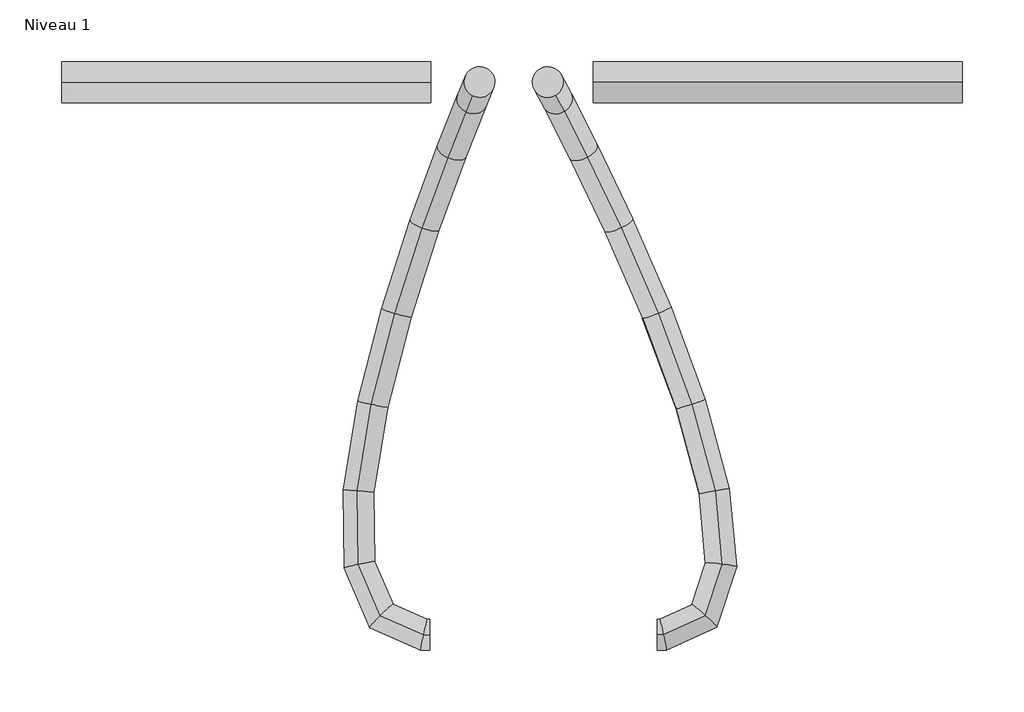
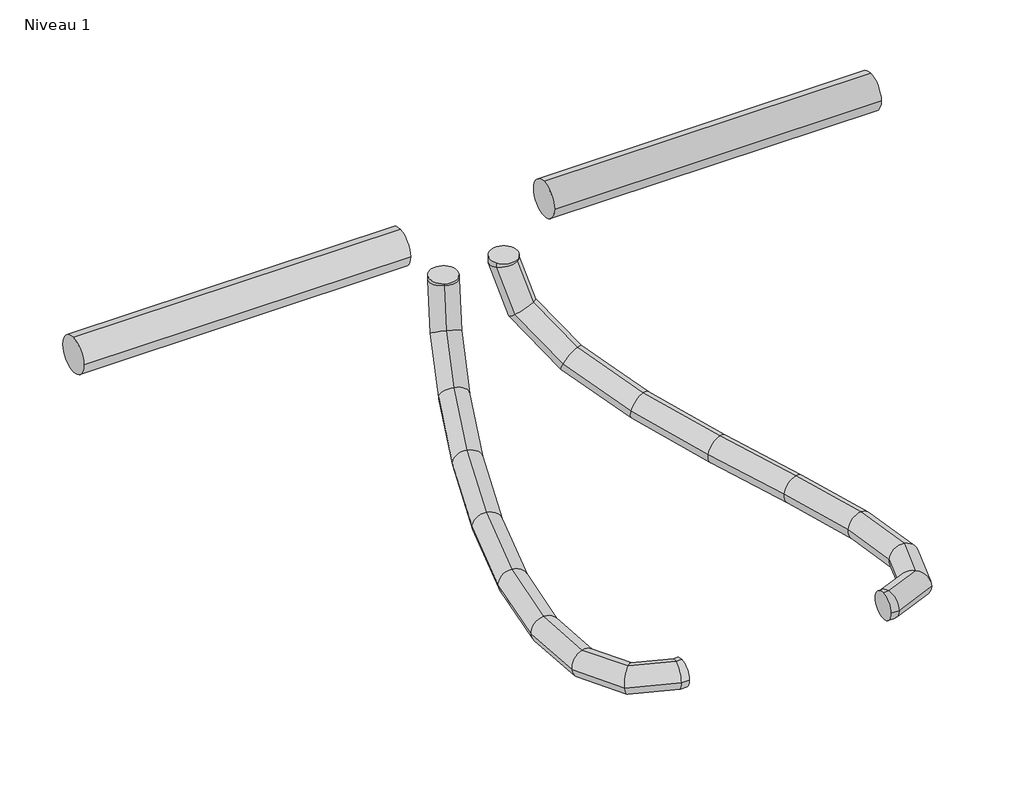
# One storey, incomplete: 4 pipe segments.
"""IFC4 building model written with IfcOpenShell, lengths in millimetres."""

from ifc_helpers import new_model, si_unit, point, frame, frame_2d, origin, place, context, project, spatial, circle_curve, ellipse_curve, trimmed, segment, composite_curve, outline, extrude, element, save
from ifc_brep_helpers import plane_surface, cylinder_surface, advanced_brep

model = new_model("IFC4")

# Units and contexts
model_context = context("Model", 3, world=origin())
ifc_project = project(units=[si_unit("LENGTHUNIT", "METRE", prefix="MILLI")], contexts=[model_context])

# Site, building, storey
site = spatial("IfcSite", under=ifc_project)
building = spatial("IfcBuilding", under=site)
storey = spatial("IfcBuildingStorey", under=building, Name="Niveau 1", Elevation=0.0)

# Pipe segments
placement = place(None, origin())
element("IfcPipeSegment", 1, ObjectType="Souple - Circulaire", at=placement, inside=storey, context=model_context, shape_type="AdvancedBrep", body=[
    advanced_brep(
    [(125.3426474, 1270.5763373, 958.6770583), (125.3426474, 1258.0763373, 946.1770583), (125.3426474, 1245.5763373, 958.6770583), (125.3426474, 1258.0763373, 971.1770583), (127.2908823, 1270.5763373, 958.6770583), (129.7238377, 1258.0763373, 946.1770583), (132.7760285, 1245.5763373, 958.6770583), (130.3430731, 1258.0763373, 971.1770583), (25.7496949, 1700.7544816, 1057.91328), (42.9562285, 1696.7004466, 1057.91328), (47.0102635, 1713.9069803, 1057.91328), (29.8037299, 1717.9610153, 1057.91328), (153.3067671, 1282.5774978, 957.3222097), (162.4311821, 1273.1642765, 944.4737336), (173.5560993, 1264.3882354, 956.5533242), (164.4316843, 1273.8014567, 969.4018003), (164.4809099, 1316.3057877, 954.2706494), (175.9546812, 1313.9839178, 940.7805847), (189.740281, 1313.2389423, 952.1335662), (178.2665097, 1315.5608123, 965.6236309), (159.405523, 1372.3939822, 950.9784835), (170.5348063, 1373.8790555, 937.2649655), (183.9972381, 1376.705415, 948.4083231), (172.8679548, 1375.2203418, 962.1218411), (140.6767932, 1441.6097636, 949.944762), (151.2338656, 1445.2095572, 936.1996611), (164.3732772, 1449.229703, 947.3251899), (153.8162048, 1445.6299094, 961.0702907), (113.4004037, 1515.2437531, 953.5146709), (123.3207147, 1520.562516, 939.8529088), (136.4052079, 1524.7309168, 950.9856252), (126.4848968, 1519.4121539, 964.6473872), (82.9319019, 1585.4721698, 963.9315942), (91.999272, 1592.7569203, 950.5614455), (105.379976, 1596.2425694, 961.5928899), (96.312606, 1588.9578189, 974.9630386), (54.6367981, 1644.7152728, 983.3884782), (62.2881129, 1654.9649004, 970.9920676), (76.5745644, 1656.5541336, 981.4006827), (68.9232495, 1646.304506, 993.7970932), (33.8475682, 1685.5273907, 1014.0062465), (39.1709852, 1700.347002, 1005.0382956), (55.29899, 1698.3210127, 1012.7347248), (49.975573, 1683.5014014, 1021.7026757), (25.7496949, 1700.7544816, 1053.5238608), (29.8037299, 1717.9610153, 1050.7504927), (47.0102635, 1713.9069803, 1053.1837021), (42.9562285, 1696.7004466, 1055.9570702)],
    [
        (0, 1, circle_curve(frame((125.3426474, 1258.0763373, 958.6770583), z_axis=(-1.0, 0.0, 0.0), x_axis=(0.0, 1.0, 0.0)), 12.5)),
        (1, 2, circle_curve(frame((125.3426474, 1258.0763373, 958.6770583), z_axis=(-1.0, 0.0, 0.0), x_axis=(0.0, 1.0, 0.0)), 12.5)),
        (2, 3, circle_curve(frame((125.3426474, 1258.0763373, 958.6770583), z_axis=(-1.0, 0.0, 0.0), x_axis=(0.0, 1.0, 0.0)), 12.5)),
        (3, 0, circle_curve(frame((125.3426474, 1258.0763373, 958.6770583), z_axis=(-1.0, 0.0, 0.0), x_axis=(0.0, 1.0, 0.0)), 12.5)),
        (0, 4),
        (4, 5, ellipse_curve(frame((130.0334554, 1258.0763373, 958.6770583), z_axis=(-0.9764803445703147, -0.21424549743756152, 0.02418684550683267), x_axis=(-0.2156064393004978, 0.97031664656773, -0.10954208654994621)), 12.8010769, 12.5)),
        (5, 1),
        (5, 6, ellipse_curve(frame((130.0334554, 1258.0763373, 958.6770583), z_axis=(-0.9764803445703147, -0.21424549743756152, 0.02418684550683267), x_axis=(-0.2156064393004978, 0.97031664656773, -0.10954208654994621)), 12.8010769, 12.5)),
        (6, 2),
        (6, 7, ellipse_curve(frame((130.0334554, 1258.0763373, 958.6770583), z_axis=(-0.9764803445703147, -0.21424549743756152, 0.02418684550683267), x_axis=(-0.2156064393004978, 0.97031664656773, -0.10954208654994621)), 12.8010769, 12.5)),
        (7, 3),
        (7, 4, ellipse_curve(frame((130.0334554, 1258.0763373, 958.6770583), z_axis=(-0.9764803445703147, -0.21424549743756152, 0.02418684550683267), x_axis=(-0.2156064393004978, 0.97031664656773, -0.10954208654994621)), 12.8010769, 12.5)),
        (8, 9, circle_curve(frame((36.3799792, 1707.3307309, 1057.91328), z_axis=(0.0, 0.0, 1.0), x_axis=(-0.8504227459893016, -0.5260999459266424, 0.0)), 12.5)),
        (9, 10, circle_curve(frame((36.3799792, 1707.3307309, 1057.91328), z_axis=(0.0, 0.0, 1.0), x_axis=(-0.8504227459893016, -0.5260999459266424, 0.0)), 12.5)),
        (10, 11, circle_curve(frame((36.3799792, 1707.3307309, 1057.91328), z_axis=(0.0, 0.0, 1.0), x_axis=(-0.8504227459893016, -0.5260999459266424, 0.0)), 12.5)),
        (11, 8, circle_curve(frame((36.3799792, 1707.3307309, 1057.91328), z_axis=(0.0, 0.0, 1.0), x_axis=(-0.8504227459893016, -0.5260999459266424, 0.0)), 12.5)),
        (4, 12),
        (12, 13, ellipse_curve(frame((163.4314332, 1273.4828666, 956.9377669), z_axis=(-0.6649770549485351, -0.7433496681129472, 0.07236565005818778), x_axis=(-0.7467647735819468, 0.6633381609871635, -0.04821677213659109)), 13.622522, 12.5)),
        (13, 5),
        (13, 14, ellipse_curve(frame((163.4314332, 1273.4828666, 956.9377669), z_axis=(-0.6649770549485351, -0.7433496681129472, 0.07236565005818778), x_axis=(-0.7467647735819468, 0.6633381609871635, -0.04821677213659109)), 13.622522, 12.5)),
        (14, 6),
        (14, 15, ellipse_curve(frame((163.4314332, 1273.4828666, 956.9377669), z_axis=(-0.6649770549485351, -0.7433496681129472, 0.07236565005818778), x_axis=(-0.7467647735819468, 0.6633381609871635, -0.04821677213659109)), 13.622522, 12.5)),
        (15, 7),
        (15, 12, ellipse_curve(frame((163.4314332, 1273.4828666, 956.9377669), z_axis=(-0.6649770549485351, -0.7433496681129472, 0.07236565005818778), x_axis=(-0.7467647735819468, 0.6633381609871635, -0.04821677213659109)), 13.622522, 12.5)),
        (12, 16),
        (16, 17, ellipse_curve(frame((177.1105954, 1314.772365, 953.2021078), z_axis=(-0.11407233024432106, -0.9907496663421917, 0.07350239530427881), x_axis=(-0.9906397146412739, 0.11901843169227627, 0.06683987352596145)), 12.7673077, 12.5)),
        (17, 13),
        (17, 18, ellipse_curve(frame((177.1105954, 1314.772365, 953.2021078), z_axis=(-0.11407233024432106, -0.9907496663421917, 0.07350239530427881), x_axis=(-0.9906397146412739, 0.11901843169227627, 0.06683987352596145)), 12.7673077, 12.5)),
        (18, 14),
        (18, 19, ellipse_curve(frame((177.1105954, 1314.772365, 953.2021078), z_axis=(-0.11407233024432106, -0.9907496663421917, 0.07350239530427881), x_axis=(-0.9906397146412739, 0.11901843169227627, 0.06683987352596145)), 12.7673077, 12.5)),
        (19, 15),
        (19, 16, ellipse_curve(frame((177.1105954, 1314.772365, 953.2021078), z_axis=(-0.11407233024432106, -0.9907496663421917, 0.07350239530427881), x_axis=(-0.9906397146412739, 0.11901843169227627, 0.06683987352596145)), 12.7673077, 12.5)),
        (16, 20),
        (20, 21, ellipse_curve(frame((171.7013806, 1374.5496986, 949.6934033), z_axis=(0.17627450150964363, -0.9836628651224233, 0.03653310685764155), x_axis=(-0.9557799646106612, -0.16216630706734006, 0.24532987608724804)), 12.5504335, 12.5)),
        (21, 17),
        (21, 22, ellipse_curve(frame((171.7013806, 1374.5496986, 949.6934033), z_axis=(0.17627450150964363, -0.9836628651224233, 0.03653310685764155), x_axis=(-0.9557799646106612, -0.16216630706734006, 0.24532987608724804)), 12.5504335, 12.5)),
        (22, 18),
        (22, 23, ellipse_curve(frame((171.7013806, 1374.5496986, 949.6934033), z_axis=(0.17627450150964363, -0.9836628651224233, 0.03653310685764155), x_axis=(-0.9557799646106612, -0.16216630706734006, 0.24532987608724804)), 12.5504335, 12.5)),
        (23, 19),
        (23, 20, ellipse_curve(frame((171.7013806, 1374.5496986, 949.6934033), z_axis=(0.17627450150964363, -0.9836628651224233, 0.03653310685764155), x_axis=(-0.9557799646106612, -0.16216630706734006, 0.24532987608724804)), 12.5504335, 12.5)),
        (20, 24),
        (24, 25, ellipse_curve(frame((152.5250352, 1445.4197333, 948.6349759), z_axis=(0.30453361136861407, -0.9523750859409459, -0.015523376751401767), x_axis=(-0.791700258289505, -0.2621500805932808, 0.551804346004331)), 12.5184102, 12.5)),
        (25, 21),
        (25, 26, ellipse_curve(frame((152.5250352, 1445.4197333, 948.6349759), z_axis=(0.30453361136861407, -0.9523750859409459, -0.015523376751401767), x_axis=(-0.791700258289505, -0.2621500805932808, 0.551804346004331)), 12.5184102, 12.5)),
        (26, 22),
        (26, 27, ellipse_curve(frame((152.5250352, 1445.4197333, 948.6349759), z_axis=(0.30453361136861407, -0.9523750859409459, -0.015523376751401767), x_axis=(-0.791700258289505, -0.2621500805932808, 0.551804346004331)), 12.5184102, 12.5)),
        (27, 23),
        (27, 24, ellipse_curve(frame((152.5250352, 1445.4197333, 948.6349759), z_axis=(0.30453361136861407, -0.9523750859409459, -0.015523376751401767), x_axis=(-0.791700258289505, -0.2621500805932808, 0.551804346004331)), 12.5184102, 12.5)),
        (24, 28),
        (28, 29, ellipse_curve(frame((124.9028058, 1519.987335, 952.250148), z_axis=(0.3712000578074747, -0.92415678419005, -0.09024829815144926), x_axis=(-0.4514144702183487, -0.2645380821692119, 0.852199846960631)), 12.5172372, 12.5)),
        (29, 25),
        (29, 30, ellipse_curve(frame((124.9028058, 1519.987335, 952.250148), z_axis=(0.3712000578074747, -0.92415678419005, -0.09024829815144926), x_axis=(-0.4514144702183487, -0.2645380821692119, 0.852199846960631)), 12.5172372, 12.5)),
        (30, 26),
        (30, 31, ellipse_curve(frame((124.9028058, 1519.987335, 952.250148), z_axis=(0.3712000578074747, -0.92415678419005, -0.09024829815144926), x_axis=(-0.4514144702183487, -0.2645380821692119, 0.852199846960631)), 12.5172372, 12.5)),
        (31, 27),
        (31, 28, ellipse_curve(frame((124.9028058, 1519.987335, 952.250148), z_axis=(0.3712000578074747, -0.92415678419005, -0.09024829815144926), x_axis=(-0.4514144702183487, -0.2645380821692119, 0.852199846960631)), 12.5172372, 12.5)),
        (28, 32),
        (32, 33, ellipse_curve(frame((94.155939, 1590.8573696, 962.762242), z_axis=(0.4050381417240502, -0.8898246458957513, -0.21013377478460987), x_axis=(-0.12020785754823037, -0.2796622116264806, 0.9525434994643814)), 12.538569, 12.5)),
        (33, 29),
        (33, 34, ellipse_curve(frame((94.155939, 1590.8573696, 962.762242), z_axis=(0.4050381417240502, -0.8898246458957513, -0.21013377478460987), x_axis=(-0.12020785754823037, -0.2796622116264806, 0.9525434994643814)), 12.538569, 12.5)),
        (34, 30),
        (34, 35, ellipse_curve(frame((94.155939, 1590.8573696, 962.762242), z_axis=(0.4050381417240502, -0.8898246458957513, -0.21013377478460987), x_axis=(-0.12020785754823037, -0.2796622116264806, 0.9525434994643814)), 12.538569, 12.5)),
        (35, 31),
        (35, 32, ellipse_curve(frame((94.155939, 1590.8573696, 962.762242), z_axis=(0.4050381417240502, -0.8898246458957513, -0.21013377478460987), x_axis=(-0.12020785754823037, -0.2796622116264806, 0.9525434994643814)), 12.538569, 12.5)),
        (32, 36),
        (36, 37, ellipse_curve(frame((65.6056812, 1650.6347032, 982.3945804), z_axis=(0.3998300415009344, -0.8122191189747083, -0.42477763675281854), x_axis=(0.11921025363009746, -0.41341662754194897, 0.9027046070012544)), 12.6438939, 12.5)),
        (37, 33),
        (37, 38, ellipse_curve(frame((65.6056812, 1650.6347032, 982.3945804), z_axis=(0.3998300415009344, -0.8122191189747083, -0.42477763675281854), x_axis=(0.11921025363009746, -0.41341662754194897, 0.9027046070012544)), 12.6438939, 12.5)),
        (38, 34),
        (38, 39, ellipse_curve(frame((65.6056812, 1650.6347032, 982.3945804), z_axis=(0.3998300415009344, -0.8122191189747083, -0.42477763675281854), x_axis=(0.11921025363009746, -0.41341662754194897, 0.9027046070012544)), 12.6438939, 12.5)),
        (39, 35),
        (39, 36, ellipse_curve(frame((65.6056812, 1650.6347032, 982.3945804), z_axis=(0.3998300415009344, -0.8122191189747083, -0.42477763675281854), x_axis=(0.11921025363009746, -0.41341662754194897, 0.9027046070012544)), 12.6438939, 12.5)),
        (36, 40),
        (40, 41, ellipse_curve(frame((44.5732791, 1691.9242017, 1013.3704856), z_axis=(0.2944620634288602, -0.569971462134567, -0.7670884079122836), x_axis=(0.33698847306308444, -0.6891889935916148, 0.6414493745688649)), 13.0256667, 12.5)),
        (41, 37),
        (41, 42, ellipse_curve(frame((44.5732791, 1691.9242017, 1013.3704856), z_axis=(0.2944620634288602, -0.569971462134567, -0.7670884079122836), x_axis=(0.33698847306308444, -0.6891889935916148, 0.6414493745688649)), 13.0256667, 12.5)),
        (42, 38),
        (42, 43, ellipse_curve(frame((44.5732791, 1691.9242017, 1013.3704856), z_axis=(0.2944620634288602, -0.569971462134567, -0.7670884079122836), x_axis=(0.33698847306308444, -0.6891889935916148, 0.6414493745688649)), 13.0256667, 12.5)),
        (43, 39),
        (43, 40, ellipse_curve(frame((44.5732791, 1691.9242017, 1013.3704856), z_axis=(0.2944620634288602, -0.569971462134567, -0.7670884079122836), x_axis=(0.33698847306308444, -0.6891889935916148, 0.6414493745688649)), 13.0256667, 12.5)),
        (40, 44),
        (44, 45, ellipse_curve(frame((36.3799792, 1707.3307309, 1053.3537815), z_axis=(0.09592905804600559, -0.1803832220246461, -0.97890730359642), x_axis=(0.4596348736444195, -0.8642888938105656, 0.20430489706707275)), 12.7693398, 12.5)),
        (45, 41),
        (45, 46, ellipse_curve(frame((36.3799792, 1707.3307309, 1053.3537815), z_axis=(0.09592905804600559, -0.1803832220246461, -0.97890730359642), x_axis=(0.4596348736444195, -0.8642888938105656, 0.20430489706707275)), 12.7693398, 12.5)),
        (46, 42),
        (46, 47, ellipse_curve(frame((36.3799792, 1707.3307309, 1053.3537815), z_axis=(0.09592905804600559, -0.1803832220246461, -0.97890730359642), x_axis=(0.4596348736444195, -0.8642888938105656, 0.20430489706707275)), 12.7693398, 12.5)),
        (47, 43),
        (47, 44, ellipse_curve(frame((36.3799792, 1707.3307309, 1053.3537815), z_axis=(0.09592905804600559, -0.1803832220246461, -0.97890730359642), x_axis=(0.4596348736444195, -0.8642888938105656, 0.20430489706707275)), 12.7693398, 12.5)),
        (44, 8),
        (11, 45),
        (10, 46),
        (9, 47),
    ],
    [
        plane_surface(frame((125.3426474, 1258.0763373, 946.1770583), z_axis=(-1.0, 0.0, 0.0), x_axis=(0.0, 1.0, 0.0))),
        cylinder_surface(frame((125.3426474, 1258.0763373, 958.6770583), z_axis=(-1.0, 0.0, 0.0), x_axis=(0.0, 1.0, 0.0)), 12.5),
        plane_surface(frame((36.3799792, 1694.8307309, 1057.91328), z_axis=(0.0, 0.0, 1.0), x_axis=(1.0, 0.0, 0.0))),
        cylinder_surface(frame((130.0334554, 1258.0763373, 958.6770583), z_axis=(-0.9070277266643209, -0.41841303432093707, 0.047235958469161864), x_axis=(-0.41841303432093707, 0.9081977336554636, 0.010363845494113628)), 12.5),
        cylinder_surface(frame((163.4314332, 1273.4828666, 956.9377669), z_axis=(-0.31333560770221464, -0.9457794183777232, 0.08556920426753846), x_axis=(-0.9452390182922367, 0.3192812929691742, 0.0676953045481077)), 12.5),
        cylinder_surface(frame((177.1105954, 1314.772365, 953.2021078), z_axis=(0.089967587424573, -0.9942334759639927, 0.05835776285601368), x_axis=(-0.9916724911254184, -0.08400623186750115, 0.09761466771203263)), 12.5),
        cylinder_surface(frame((171.7013806, 1374.5496986, 949.6934033), z_axis=(0.2611647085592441, -0.9651866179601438, 0.014414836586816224), x_axis=(-0.9604343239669, -0.2583242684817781, 0.10408881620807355)), 12.5),
        cylinder_surface(frame((152.5250352, 1445.4197333, 948.6349759), z_axis=(0.3470067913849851, -0.9367623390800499, -0.045415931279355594), x_axis=(-0.9311511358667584, -0.34990226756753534, 0.10259612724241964)), 12.5),
        cylinder_surface(frame((124.9028058, 1519.987335, 952.250148), z_axis=(0.3943709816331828, -0.9090059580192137, -0.13483210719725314), x_axis=(-0.9077373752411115, -0.40819424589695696, 0.0969036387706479)), 12.5),
        cylinder_surface(frame((94.155939, 1590.8573696, 962.762242), z_axis=(0.4132134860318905, -0.8651690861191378, -0.28414268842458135), x_axis=(-0.8876396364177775, -0.4523467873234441, 0.08647693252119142)), 12.5),
        cylinder_surface(frame((65.6056812, 1650.6347032, 982.3945804), z_axis=(0.3773460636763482, -0.7407822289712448, -0.555744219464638), x_axis=(-0.8682608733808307, -0.4917130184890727, 0.06588902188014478)), 12.5),
        cylinder_surface(frame((44.5732791, 1691.9242017, 1013.3704856), z_axis=(0.1878113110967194, -0.3531569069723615, -0.9165190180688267), x_axis=(-0.8529781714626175, -0.5212947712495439, 0.026076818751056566)), 12.5),
        cylinder_surface(frame((36.3799792, 1707.3307309, 1053.3537815), z_axis=(0.0, 0.0, -1.0000000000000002), x_axis=(-0.8504227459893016, -0.5260999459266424, 0.0)), 12.5),
    ],
    [
        (0, [[1, 2, 3, 4]]),
        (1, [[-1, 5, 6, 7]]),
        (1, [[-2, -7, 8, 9]]),
        (1, [[-3, -9, 10, 11]]),
        (1, [[-4, -11, 12, -5]]),
        (2, [[13, 14, 15, 16]]),
        (3, [[-6, 17, 18, 19]]),
        (3, [[-8, -19, 20, 21]]),
        (3, [[-10, -21, 22, 23]]),
        (3, [[-12, -23, 24, -17]]),
        (4, [[-18, 25, 26, 27]]),
        (4, [[-20, -27, 28, 29]]),
        (4, [[-22, -29, 30, 31]]),
        (4, [[-24, -31, 32, -25]]),
        (5, [[-26, 33, 34, 35]]),
        (5, [[-28, -35, 36, 37]]),
        (5, [[-30, -37, 38, 39]]),
        (5, [[-32, -39, 40, -33]]),
        (6, [[-34, 41, 42, 43]]),
        (6, [[-36, -43, 44, 45]]),
        (6, [[-38, -45, 46, 47]]),
        (6, [[-40, -47, 48, -41]]),
        (7, [[-42, 49, 50, 51]]),
        (7, [[-44, -51, 52, 53]]),
        (7, [[-46, -53, 54, 55]]),
        (7, [[-48, -55, 56, -49]]),
        (8, [[-50, 57, 58, 59]]),
        (8, [[-52, -59, 60, 61]]),
        (8, [[-54, -61, 62, 63]]),
        (8, [[-56, -63, 64, -57]]),
        (9, [[-58, 65, 66, 67]]),
        (9, [[-60, -67, 68, 69]]),
        (9, [[-62, -69, 70, 71]]),
        (9, [[-64, -71, 72, -65]]),
        (10, [[-66, 73, 74, 75]]),
        (10, [[-68, -75, 76, 77]]),
        (10, [[-70, -77, 78, 79]]),
        (10, [[-72, -79, 80, -73]]),
        (11, [[-74, 81, 82, 83]]),
        (11, [[-76, -83, 84, 85]]),
        (11, [[-78, -85, 86, 87]]),
        (11, [[-80, -87, 88, -81]]),
        (12, [[-82, 89, -16, 90]]),
        (12, [[-84, -90, -15, 91]]),
        (12, [[-86, -91, -14, 92]]),
        (12, [[-88, -92, -13, -89]]),
    ],
),
])
element("IfcPipeSegment", 2, ObjectType="Souple - Circulaire", at=placement, inside=storey, context=model_context, shape_type="AdvancedBrep", body=[
    advanced_brep(
    [(-59.6821361, 1245.5763373, 958.6770583), (-59.6821361, 1258.0763373, 946.1770583), (-59.6821361, 1270.5763373, 958.6770583), (-59.6821361, 1258.0763373, 971.1770583), (-66.9192141, 1245.5763373, 958.6770583), (-63.9749005, 1258.0763373, 946.1770583), (-61.6044195, 1270.5763373, 958.6770583), (-64.5487331, 1258.0763373, 971.1770583), (-30.3995978, 1712.6926694, 1057.9740311), (-24.4699634, 1696.0391582, 1057.9740311), (-7.8164522, 1701.9687925, 1057.9740311), (-13.7460866, 1718.6223037, 1057.9740311), (-108.3574093, 1264.0393451, 956.6836277), (-97.9454099, 1273.2120781, 944.5428691), (-89.3227533, 1282.9263881, 957.3436369), (-99.7347527, 1273.7536551, 969.4843956), (-129.0680752, 1312.0459438, 952.5611948), (-115.5994189, 1314.1334529, 941.02886), (-104.2377319, 1317.4987863, 954.3748286), (-117.7063882, 1315.4112771, 965.9071634), (-130.0615219, 1375.4182972, 949.1042585), (-116.5388689, 1374.0613374, 937.7598181), (-105.118465, 1373.6811001, 951.310106), (-118.641118, 1375.0380598, 962.6545464), (-118.3138701, 1448.0086016, 948.2755676), (-104.9897973, 1445.4245887, 936.9451352), (-93.927613, 1442.830865, 950.5206923), (-107.2516858, 1445.4148779, 961.8511246), (-98.6494335, 1523.5684557, 952.1359731), (-85.3651813, 1520.8314336, 940.7977234), (-74.7796433, 1516.4062143, 954.2797081), (-88.0638956, 1519.1432364, 965.6179578), (-75.5573918, 1595.1147833, 962.8325422), (-62.0346414, 1593.1167025, 951.6047682), (-52.1241575, 1586.5999559, 964.7740581), (-65.6469078, 1588.5980367, 976.001832), (-53.4893131, 1655.4281928, 982.5560423), (-39.2188062, 1655.4737763, 971.996581), (-30.4483685, 1645.8412137, 984.1469466), (-44.7188753, 1645.7956301, 994.7064079), (-36.9186092, 1697.1456494, 1013.5418247), (-21.1339124, 1701.003271, 1005.8137676), (-14.2176455, 1686.7027539, 1014.4969942), (-30.0023423, 1682.8451324, 1022.2250513), (-30.3995978, 1712.6926694, 1053.4157666), (-13.7460866, 1718.6223037, 1051.0018672), (-7.8164522, 1701.9687925, 1053.6502941), (-24.4699634, 1696.0391582, 1056.0641934)],
    [
        (0, 1, circle_curve(frame((-59.6821361, 1258.0763373, 958.6770583), z_axis=(1.0, 0.0, 0.0), x_axis=(0.0, -1.0, 0.0)), 12.5)),
        (1, 2, circle_curve(frame((-59.6821361, 1258.0763373, 958.6770583), z_axis=(1.0, 0.0, 0.0), x_axis=(0.0, -1.0, 0.0)), 12.5)),
        (2, 3, circle_curve(frame((-59.6821361, 1258.0763373, 958.6770583), z_axis=(1.0, 0.0, 0.0), x_axis=(0.0, -1.0, 0.0)), 12.5)),
        (3, 0, circle_curve(frame((-59.6821361, 1258.0763373, 958.6770583), z_axis=(1.0, 0.0, 0.0), x_axis=(0.0, -1.0, 0.0)), 12.5)),
        (0, 4),
        (4, 5, ellipse_curve(frame((-64.2618168, 1258.0763373, 958.6770583), z_axis=(0.9778941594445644, -0.20789226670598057, 0.02244589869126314), x_axis=(0.2091004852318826, 0.972243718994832, -0.10497208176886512)), 12.7825694, 12.5)),
        (5, 1),
        (5, 6, ellipse_curve(frame((-64.2618168, 1258.0763373, 958.6770583), z_axis=(0.9778941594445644, -0.20789226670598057, 0.02244589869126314), x_axis=(0.2091004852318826, 0.972243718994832, -0.10497208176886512)), 12.7825694, 12.5)),
        (6, 2),
        (6, 7, ellipse_curve(frame((-64.2618168, 1258.0763373, 958.6770583), z_axis=(0.9778941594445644, -0.20789226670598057, 0.02244589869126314), x_axis=(0.2091004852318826, 0.972243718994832, -0.10497208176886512)), 12.7825694, 12.5)),
        (7, 3),
        (7, 4, ellipse_curve(frame((-64.2618168, 1258.0763373, 958.6770583), z_axis=(0.9778941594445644, -0.20789226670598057, 0.02244589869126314), x_axis=(0.2091004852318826, 0.972243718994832, -0.10497208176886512)), 12.7825694, 12.5)),
        (8, 9, circle_curve(frame((-19.108025, 1707.3307309, 1057.9740311), z_axis=(0.0, 0.0, 1.0), x_axis=(-0.9033258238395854, 0.42895507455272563, 0.0)), 12.5)),
        (9, 10, circle_curve(frame((-19.108025, 1707.3307309, 1057.9740311), z_axis=(0.0, 0.0, 1.0), x_axis=(-0.9033258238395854, 0.42895507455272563, 0.0)), 12.5)),
        (10, 11, circle_curve(frame((-19.108025, 1707.3307309, 1057.9740311), z_axis=(0.0, 0.0, 1.0), x_axis=(-0.9033258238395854, 0.42895507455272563, 0.0)), 12.5)),
        (11, 8, circle_curve(frame((-19.108025, 1707.3307309, 1057.9740311), z_axis=(0.0, 0.0, 1.0), x_axis=(-0.9033258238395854, 0.42895507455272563, 0.0)), 12.5)),
        (4, 12),
        (12, 13, ellipse_curve(frame((-98.8400813, 1273.4828666, 957.0136323), z_axis=(0.7016755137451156, -0.7094569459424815, 0.06574431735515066), x_axis=(0.7123930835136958, 0.7001536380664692, -0.047759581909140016)), 13.4168637, 12.5)),
        (13, 5),
        (13, 14, ellipse_curve(frame((-98.8400813, 1273.4828666, 957.0136323), z_axis=(0.7016755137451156, -0.7094569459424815, 0.06574431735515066), x_axis=(0.7123930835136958, 0.7001536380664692, -0.047759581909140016)), 13.4168637, 12.5)),
        (14, 6),
        (14, 15, ellipse_curve(frame((-98.8400813, 1273.4828666, 957.0136323), z_axis=(0.7016755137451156, -0.7094569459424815, 0.06574431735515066), x_axis=(0.7123930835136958, 0.7001536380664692, -0.047759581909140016)), 13.4168637, 12.5)),
        (15, 7),
        (15, 12, ellipse_curve(frame((-98.8400813, 1273.4828666, 957.0136323), z_axis=(0.7016755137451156, -0.7094569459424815, 0.06574431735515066), x_axis=(0.7123930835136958, 0.7001536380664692, -0.047759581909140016)), 13.4168637, 12.5)),
        (12, 16),
        (16, 17, ellipse_curve(frame((-116.6529035, 1314.772365, 953.4680117), z_axis=(0.20927004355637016, -0.9755026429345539, 0.06782803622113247), x_axis=(0.9749756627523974, 0.21347241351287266, 0.06206436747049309)), 12.7433398, 12.5)),
        (17, 13),
        (17, 18, ellipse_curve(frame((-116.6529035, 1314.772365, 953.4680117), z_axis=(0.20927004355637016, -0.9755026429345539, 0.06782803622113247), x_axis=(0.9749756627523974, 0.21347241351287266, 0.06206436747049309)), 12.7433398, 12.5)),
        (18, 14),
        (18, 19, ellipse_curve(frame((-116.6529035, 1314.772365, 953.4680117), z_axis=(0.20927004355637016, -0.9755026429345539, 0.06782803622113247), x_axis=(0.9749756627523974, 0.21347241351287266, 0.06206436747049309)), 12.7433398, 12.5)),
        (19, 15),
        (19, 16, ellipse_curve(frame((-116.6529035, 1314.772365, 953.4680117), z_axis=(0.20927004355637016, -0.9755026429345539, 0.06782803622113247), x_axis=(0.9749756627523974, 0.21347241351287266, 0.06206436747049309)), 12.7433398, 12.5)),
        (16, 20),
        (20, 21, ellipse_curve(frame((-117.5899934, 1374.5496986, 950.2071822), z_axis=(-0.07234442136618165, -0.9968336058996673, 0.033000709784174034), x_axis=(0.969096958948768, -0.062430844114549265, 0.23864926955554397)), 12.5515003, 12.5)),
        (21, 17),
        (21, 22, ellipse_curve(frame((-117.5899934, 1374.5496986, 950.2071822), z_axis=(-0.07234442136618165, -0.9968336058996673, 0.033000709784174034), x_axis=(0.969096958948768, -0.062430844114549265, 0.23864926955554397)), 12.5515003, 12.5)),
        (22, 18),
        (22, 23, ellipse_curve(frame((-117.5899934, 1374.5496986, 950.2071822), z_axis=(-0.07234442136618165, -0.9968336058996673, 0.033000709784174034), x_axis=(0.969096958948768, -0.062430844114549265, 0.23864926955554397)), 12.5515003, 12.5)),
        (23, 19),
        (23, 20, ellipse_curve(frame((-117.5899934, 1374.5496986, 950.2071822), z_axis=(-0.07234442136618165, -0.9968336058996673, 0.033000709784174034), x_axis=(0.969096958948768, -0.062430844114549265, 0.23864926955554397)), 12.5515003, 12.5)),
        (20, 24),
        (24, 25, ellipse_curve(frame((-106.1207415, 1445.4197333, 949.3981299), z_axis=(-0.20597245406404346, -0.9783716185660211, -0.019087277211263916), x_axis=(0.8202310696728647, -0.1832515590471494, 0.5418854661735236)), 12.5196208, 12.5)),
        (25, 21),
        (25, 26, ellipse_curve(frame((-106.1207415, 1445.4197333, 949.3981299), z_axis=(-0.20597245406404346, -0.9783716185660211, -0.019087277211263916), x_axis=(0.8202310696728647, -0.1832515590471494, 0.5418854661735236)), 12.5196208, 12.5)),
        (26, 22),
        (26, 27, ellipse_curve(frame((-106.1207415, 1445.4197333, 949.3981299), z_axis=(-0.20597245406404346, -0.9783716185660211, -0.019087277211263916), x_axis=(0.8202310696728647, -0.1832515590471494, 0.5418854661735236)), 12.5196208, 12.5)),
        (27, 23),
        (27, 24, ellipse_curve(frame((-106.1207415, 1445.4197333, 949.3981299), z_axis=(-0.20597245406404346, -0.9783716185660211, -0.019087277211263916), x_axis=(0.8202310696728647, -0.1832515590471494, 0.5418854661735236)), 12.5196208, 12.5)),
        (24, 28),
        (28, 29, ellipse_curve(frame((-86.7145384, 1519.987335, 953.2078406), z_axis=(-0.2782304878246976, -0.9557787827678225, -0.09526129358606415), x_axis=(0.48522092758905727, -0.22545230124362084, 0.8448265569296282)), 12.5183594, 12.5)),
        (29, 25),
        (29, 30, ellipse_curve(frame((-86.7145384, 1519.987335, 953.2078406), z_axis=(-0.2782304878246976, -0.9557787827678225, -0.09526129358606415), x_axis=(0.48522092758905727, -0.22545230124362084, 0.8448265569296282)), 12.5183594, 12.5)),
        (30, 26),
        (30, 31, ellipse_curve(frame((-86.7145384, 1519.987335, 953.2078406), z_axis=(-0.2782304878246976, -0.9557787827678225, -0.09526129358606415), x_axis=(0.48522092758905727, -0.22545230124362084, 0.8448265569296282)), 12.5183594, 12.5)),
        (31, 27),
        (31, 28, ellipse_curve(frame((-86.7145384, 1519.987335, 953.2078406), z_axis=(-0.2782304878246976, -0.9557787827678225, -0.09526129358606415), x_axis=(0.48522092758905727, -0.22545230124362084, 0.8448265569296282)), 12.5183594, 12.5)),
        (28, 32),
        (32, 33, ellipse_curve(frame((-63.8407746, 1590.8573696, 963.8033001), z_axis=(-0.3173100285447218, -0.9229430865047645, -0.21792293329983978), x_axis=(0.15151177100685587, -0.276185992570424, 0.9490866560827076)), 12.5406516, 12.5)),
        (33, 29),
        (33, 34, ellipse_curve(frame((-63.8407746, 1590.8573696, 963.8033001), z_axis=(-0.3173100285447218, -0.9229430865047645, -0.21792293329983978), x_axis=(0.15151177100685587, -0.276185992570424, 0.9490866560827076)), 12.5406516, 12.5)),
        (34, 30),
        (34, 35, ellipse_curve(frame((-63.8407746, 1590.8573696, 963.8033001), z_axis=(-0.3173100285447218, -0.9229430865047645, -0.21792293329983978), x_axis=(0.15151177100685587, -0.276185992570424, 0.9490866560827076)), 12.5406516, 12.5)),
        (35, 31),
        (35, 32, ellipse_curve(frame((-63.8407746, 1590.8573696, 963.8033001), z_axis=(-0.3173100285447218, -0.9229430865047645, -0.21792293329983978), x_axis=(0.15151177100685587, -0.276185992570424, 0.9490866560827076)), 12.5406516, 12.5)),
        (32, 36),
        (36, 37, ellipse_curve(frame((-41.9688408, 1650.6347032, 983.3514945), z_axis=(-0.31990363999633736, -0.8411885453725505, -0.43596271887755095), x_axis=(-0.08061490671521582, -0.4343079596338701, 0.8971498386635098)), 12.6489109, 12.5)),
        (37, 33),
        (37, 38, ellipse_curve(frame((-41.9688408, 1650.6347032, 983.3514945), z_axis=(-0.31990363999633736, -0.8411885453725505, -0.43596271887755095), x_axis=(-0.08061490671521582, -0.4343079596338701, 0.8971498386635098)), 12.6489109, 12.5)),
        (38, 34),
        (38, 39, ellipse_curve(frame((-41.9688408, 1650.6347032, 983.3514945), z_axis=(-0.31990363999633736, -0.8411885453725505, -0.43596271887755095), x_axis=(-0.08061490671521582, -0.4343079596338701, 0.8971498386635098)), 12.6489109, 12.5)),
        (39, 35),
        (39, 36, ellipse_curve(frame((-41.9688408, 1650.6347032, 983.3514945), z_axis=(-0.31990363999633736, -0.8411885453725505, -0.43596271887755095), x_axis=(-0.08061490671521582, -0.4343079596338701, 0.8971498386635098)), 12.6489109, 12.5)),
        (36, 40),
        (40, 41, ellipse_curve(frame((-25.5681274, 1691.9242017, 1014.0194095), z_axis=(-0.2366309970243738, -0.5853248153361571, -0.7755002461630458), x_axis=(-0.274012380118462, -0.7255657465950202, 0.6312460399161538)), 13.0191921, 12.5)),
        (41, 37),
        (41, 42, ellipse_curve(frame((-25.5681274, 1691.9242017, 1014.0194095), z_axis=(-0.2366309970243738, -0.5853248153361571, -0.7755002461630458), x_axis=(-0.274012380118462, -0.7255657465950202, 0.6312460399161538)), 13.0191921, 12.5)),
        (42, 38),
        (42, 43, ellipse_curve(frame((-25.5681274, 1691.9242017, 1014.0194095), z_axis=(-0.2366309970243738, -0.5853248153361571, -0.7755002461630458), x_axis=(-0.274012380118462, -0.7255657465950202, 0.6312460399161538)), 13.0191921, 12.5)),
        (43, 39),
        (43, 40, ellipse_curve(frame((-25.5681274, 1691.9242017, 1014.0194095), z_axis=(-0.2366309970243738, -0.5853248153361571, -0.7755002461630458), x_axis=(-0.274012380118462, -0.7255657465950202, 0.6312460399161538)), 13.0191921, 12.5)),
        (40, 44),
        (44, 45, ellipse_curve(frame((-19.108025, 1707.3307309, 1053.5330303), z_axis=(-0.07682372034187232, -0.1832148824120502, -0.9800665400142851), x_axis=(-0.3789829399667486, -0.9038265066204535, 0.19866951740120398)), 12.7542361, 12.5)),
        (45, 41),
        (45, 46, ellipse_curve(frame((-19.108025, 1707.3307309, 1053.5330303), z_axis=(-0.07682372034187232, -0.1832148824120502, -0.9800665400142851), x_axis=(-0.3789829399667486, -0.9038265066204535, 0.19866951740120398)), 12.7542361, 12.5)),
        (46, 42),
        (46, 47, ellipse_curve(frame((-19.108025, 1707.3307309, 1053.5330303), z_axis=(-0.07682372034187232, -0.1832148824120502, -0.9800665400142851), x_axis=(-0.3789829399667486, -0.9038265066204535, 0.19866951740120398)), 12.7542361, 12.5)),
        (47, 43),
        (47, 44, ellipse_curve(frame((-19.108025, 1707.3307309, 1053.5330303), z_axis=(-0.07682372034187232, -0.1832148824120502, -0.9800665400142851), x_axis=(-0.3789829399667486, -0.9038265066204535, 0.19866951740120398)), 12.7542361, 12.5)),
        (44, 8),
        (11, 45),
        (10, 46),
        (9, 47),
    ],
    [
        plane_surface(frame((-59.6821361, 1258.0763373, 946.1770583), z_axis=(1.0, 0.0, 0.0), x_axis=(0.0, -1.0, 0.0))),
        cylinder_surface(frame((-59.6821361, 1258.0763373, 958.6770583), z_axis=(1.0, 0.0, 0.0), x_axis=(0.0, -1.0, 0.0)), 12.5),
        plane_surface(frame((-19.108025, 1694.8307309, 1057.9740311), z_axis=(0.0, 0.0, 1.0), x_axis=(1.0, 0.0, 0.0))),
        cylinder_surface(frame((-64.2618168, 1258.0763373, 958.6770583), z_axis=(0.912553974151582, -0.4065932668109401, 0.04389942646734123), x_axis=(-0.4065932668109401, -0.9135616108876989, -0.009332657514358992)), 12.5),
        cylinder_surface(frame((-98.8400813, 1273.4828666, 957.0136323), z_axis=(0.39489672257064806, -0.9153567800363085, 0.07860371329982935), x_axis=(-0.9149186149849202, -0.3995990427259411, -0.05696080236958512)), 12.5),
        cylinder_surface(frame((-116.6529035, 1314.772365, 953.4680117), z_axis=(0.015651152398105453, -0.9983931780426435, 0.05446194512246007), x_axis=(-0.9963168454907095, -0.02016495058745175, -0.08334337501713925)), 12.5),
        cylinder_surface(frame((-117.5899934, 1374.5496986, 950.2071822), z_axis=(-0.1597463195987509, -0.9870937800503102, 0.011268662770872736), x_axis=(-0.9833775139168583, 0.15812606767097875, -0.08924579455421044)), 12.5),
        cylinder_surface(frame((-106.1207415, 1445.4197333, 949.3981299), z_axis=(-0.251552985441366, -0.966582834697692, -0.0493833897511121), x_axis=(-0.9629672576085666, 0.2550750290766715, -0.08735439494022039)), 12.5),
        cylinder_surface(frame((-86.7145384, 1519.987335, 953.2078406), z_axis=(-0.3040918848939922, -0.9421712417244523, -0.14085977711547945), x_axis=(-0.944908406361, 0.3171108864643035, -0.08117135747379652)), 12.5),
        cylinder_surface(frame((-63.8407746, 1590.8573696, 963.8033001), z_axis=(-0.3284709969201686, -0.8977313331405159, -0.2935732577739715), x_axis=(-0.9291427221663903, 0.3629677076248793, -0.07034376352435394)), 12.5),
        cylinder_surface(frame((-41.9688408, 1650.6347032, 983.3514945), z_axis=(-0.3038040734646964, -0.7648397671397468, -0.5680873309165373), x_axis=(-0.9146964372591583, 0.4009543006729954, -0.05065645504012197)), 12.5),
        cylinder_surface(frame((-25.5681274, 1691.9242017, 1014.0194095), z_axis=(-0.15058471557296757, -0.35912555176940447, -0.9210608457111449), x_axis=(-0.9047384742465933, 0.4255860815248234, -0.018021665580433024)), 12.5),
        cylinder_surface(frame((-19.108025, 1707.3307309, 1053.5330303), z_axis=(0.0, 0.0, -1.0), x_axis=(-0.9033258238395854, 0.42895507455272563, 0.0)), 12.5),
    ],
    [
        (0, [[1, 2, 3, 4]]),
        (1, [[-1, 5, 6, 7]]),
        (1, [[-2, -7, 8, 9]]),
        (1, [[-3, -9, 10, 11]]),
        (1, [[-4, -11, 12, -5]]),
        (2, [[13, 14, 15, 16]]),
        (3, [[-6, 17, 18, 19]]),
        (3, [[-8, -19, 20, 21]]),
        (3, [[-10, -21, 22, 23]]),
        (3, [[-12, -23, 24, -17]]),
        (4, [[-18, 25, 26, 27]]),
        (4, [[-20, -27, 28, 29]]),
        (4, [[-22, -29, 30, 31]]),
        (4, [[-24, -31, 32, -25]]),
        (5, [[-26, 33, 34, 35]]),
        (5, [[-28, -35, 36, 37]]),
        (5, [[-30, -37, 38, 39]]),
        (5, [[-32, -39, 40, -33]]),
        (6, [[-34, 41, 42, 43]]),
        (6, [[-36, -43, 44, 45]]),
        (6, [[-38, -45, 46, 47]]),
        (6, [[-40, -47, 48, -41]]),
        (7, [[-42, 49, 50, 51]]),
        (7, [[-44, -51, 52, 53]]),
        (7, [[-46, -53, 54, 55]]),
        (7, [[-48, -55, 56, -49]]),
        (8, [[-50, 57, 58, 59]]),
        (8, [[-52, -59, 60, 61]]),
        (8, [[-54, -61, 62, 63]]),
        (8, [[-56, -63, 64, -57]]),
        (9, [[-58, 65, 66, 67]]),
        (9, [[-60, -67, 68, 69]]),
        (9, [[-62, -69, 70, 71]]),
        (9, [[-64, -71, 72, -65]]),
        (10, [[-66, 73, 74, 75]]),
        (10, [[-68, -75, 76, 77]]),
        (10, [[-70, -77, 78, 79]]),
        (10, [[-72, -79, 80, -73]]),
        (11, [[-74, 81, 82, 83]]),
        (11, [[-76, -83, 84, 85]]),
        (11, [[-78, -85, 86, 87]]),
        (11, [[-80, -87, 88, -81]]),
        (12, [[-82, 89, -16, 90]]),
        (12, [[-84, -90, -15, 91]]),
        (12, [[-86, -91, -14, 92]]),
        (12, [[-88, -92, -13, -89]]),
    ],
),
])
element("IfcPipeSegment", 3, ObjectType="Standard", at=placement, inside=storey, context=model_context, shape_type="SweptSolid", body=[
    extrude(outline(composite_curve([segment(trimmed(circle_curve(frame_2d((1707.3307309, 1099.53125)), 16.7005), [point((1724.0312309, 1099.53125))], [point((1707.3307309, 1082.83075))], False, "CARTESIAN"), True, "CONTINUOUS"), segment(trimmed(circle_curve(frame_2d((1707.3307309, 1099.53125)), 16.7005), [point((1707.3307309, 1082.83075))], [point((1690.6302309, 1099.53125))], False, "CARTESIAN"), True, "CONTINUOUS"), segment(trimmed(circle_curve(frame_2d((1707.3307309, 1099.53125)), 16.7005), [point((1690.6302309, 1099.53125))], [point((1707.3307309, 1116.23175))], False, "CARTESIAN"), True, "CONTINUOUS"), segment(trimmed(circle_curve(frame_2d((1707.3307309, 1099.53125)), 16.7005), [point((1707.3307309, 1116.23175))], [point((1724.0312309, 1099.53125))], False, "CARTESIAN"), True, "CONTINUOUS")], self_intersect=False)), frame((-358.8734836, 0.0, 0.0), z_axis=(1.0, 0.0, 0.0), x_axis=(0.0, 1.0, 0.0)), (0.0, 0.0, 1.0), 300.0),
])
element("IfcPipeSegment", 4, ObjectType="Standard", at=placement, inside=storey, context=model_context, shape_type="SweptSolid", body=[
    extrude(outline(composite_curve([segment(trimmed(circle_curve(frame_2d((1707.3307309, 1099.53125)), 16.7005), [point((1690.6302309, 1099.53125))], [point((1707.3307309, 1116.23175))], False, "CARTESIAN"), True, "CONTINUOUS"), segment(trimmed(circle_curve(frame_2d((1707.3307309, 1099.53125)), 16.7005), [point((1707.3307309, 1116.23175))], [point((1724.0312309, 1099.53125))], False, "CARTESIAN"), True, "CONTINUOUS"), segment(trimmed(circle_curve(frame_2d((1707.3307309, 1099.53125)), 16.7005), [point((1724.0312309, 1099.53125))], [point((1707.3307309, 1082.83075))], False, "CARTESIAN"), True, "CONTINUOUS"), segment(trimmed(circle_curve(frame_2d((1707.3307309, 1099.53125)), 16.7005), [point((1707.3307309, 1082.83075))], [point((1690.6302309, 1099.53125))], False, "CARTESIAN"), True, "CONTINUOUS")], self_intersect=False)), frame((73.3765164, 0.0, 0.0), z_axis=(1.0, 0.0, 0.0), x_axis=(0.0, 1.0, 0.0)), (0.0, 0.0, 1.0), 300.0),
])

save(model, "model.ifc")
